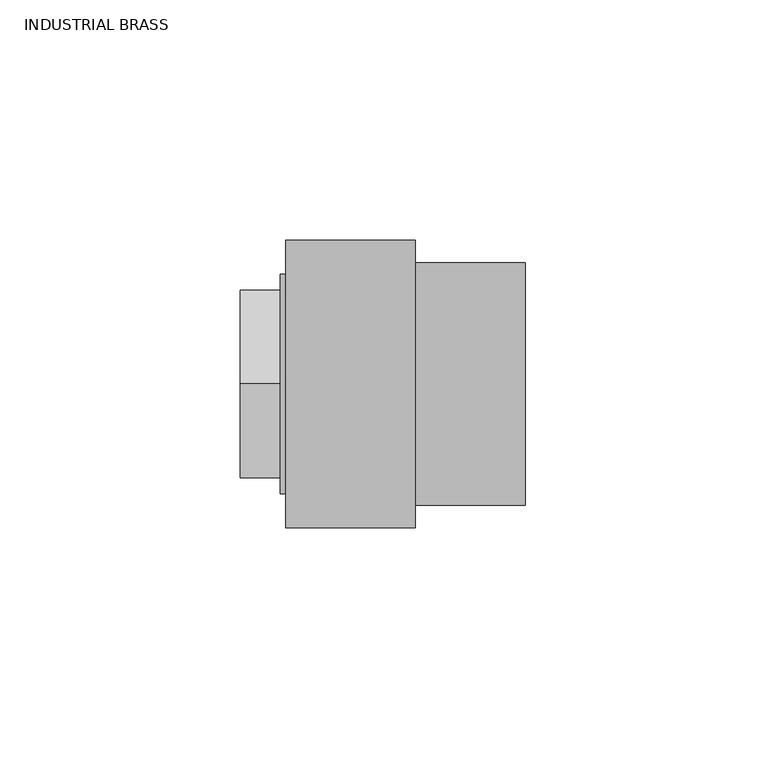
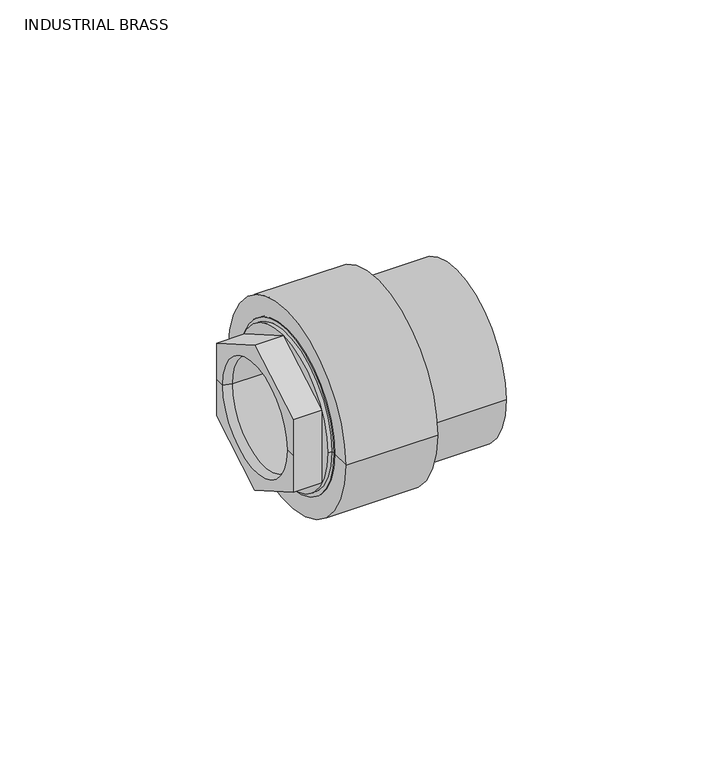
"""IFC4 building model written with IfcOpenShell, lengths in millimetres: valve geometry, Aquatherm - Transition Piece - F HEX : INDUSTRIAL BRASS."""

from ifc_helpers import new_model, si_unit, frame, origin, place, context, project, spatial, polyline, circle_curve, source, transform, mapped, element, save
from ifc_brep_helpers import plane_surface, cylinder_surface, revolved_surface, advanced_brep


def industrial_brass_e14cda01(model_context):
    return source(origin(), model_context, "Body", "AdvancedBrep", [
        advanced_brep(
        [(7.9375, -15.875, 0.0), (7.9375, 15.875, 0.0), (-6.9453125, 15.875, 0.0), (-6.9453125, -15.875, 0.0), (7.9375, -16.66875, 0.0), (7.9375, 16.66875, 0.0), (11.1125, -16.66875, 0.0), (11.1125, 16.66875, 0.0), (11.1125, -12.7, 0.0), (11.1125, 12.7, 0.0), (14.2875, -12.7, 0.0), (14.2875, 12.7, 0.0), (14.2875, -24.003, 0.0), (14.2875, 24.003, 0.0), (0.0, -24.003, 0.0), (0.0, 24.003, 0.0), (-9.525, -16.66875, 0.0), (-9.525, 16.66875, 0.0), (-9.525, 19.558, 0.0), (-9.525, 19.558, -11.2918166), (-9.525, 0.0, -22.5836331), (-9.525, -19.558, -11.2918166), (-9.525, -19.558, 0.0), (-9.525, -19.558, 11.2918166), (-9.525, 0.0, 22.5836331), (-9.525, 19.558, 11.2918166), (0.0, -22.86, 0.0), (0.0, 22.86, 0.0), (-1.190625, -22.86, 0.0), (-1.190625, 22.86, 0.0), (-1.190625, 0.0, -22.5836331), (-1.190625, 19.558, -11.2918166), (-1.190625, 19.558, 11.2918166), (-1.190625, 0.0, 22.5836331), (-1.190625, -19.558, 11.2918166), (-1.190625, -19.558, -11.2918166)],
        [
            (0, 1, circle_curve(frame((7.9375, 0.0, 0.0), z_axis=(1.0, 0.0, 0.0), x_axis=(0.0, 1.0, 0.0)), 15.875)),
            (1, 2),
            (2, 3, circle_curve(frame((-6.9453125, 0.0, 0.0), z_axis=(-1.0, 0.0, 0.0), x_axis=(0.0, 1.0, 0.0)), 15.875)),
            (3, 0),
            (1, 0, circle_curve(frame((7.9375, 0.0, 0.0), z_axis=(1.0, 0.0, 0.0), x_axis=(0.0, 1.0, 0.0)), 15.875)),
            (3, 2, circle_curve(frame((-6.9453125, 0.0, 0.0), z_axis=(-1.0, 0.0, 0.0), x_axis=(0.0, 1.0, 0.0)), 15.875)),
            (0, 4),
            (4, 5, circle_curve(frame((7.9375, 0.0, 0.0), z_axis=(1.0, 0.0, 0.0), x_axis=(0.0, 1.0, 0.0)), 16.66875)),
            (5, 1),
            (5, 4, circle_curve(frame((7.9375, 0.0, 0.0), z_axis=(1.0, 0.0, 0.0), x_axis=(0.0, 1.0, 0.0)), 16.66875)),
            (4, 6),
            (6, 7, circle_curve(frame((11.1125, 0.0, 0.0), z_axis=(1.0, 0.0, 0.0), x_axis=(0.0, 1.0, 0.0)), 16.66875)),
            (7, 5),
            (7, 6, circle_curve(frame((11.1125, 0.0, 0.0), z_axis=(1.0, 0.0, 0.0), x_axis=(0.0, 1.0, 0.0)), 16.66875)),
            (6, 8),
            (8, 9, circle_curve(frame((11.1125, 0.0, 0.0), z_axis=(1.0, 0.0, 0.0), x_axis=(0.0, 1.0, 0.0)), 12.7)),
            (9, 7),
            (9, 8, circle_curve(frame((11.1125, 0.0, 0.0), z_axis=(1.0, 0.0, 0.0), x_axis=(0.0, 1.0, 0.0)), 12.7)),
            (8, 10),
            (10, 11, circle_curve(frame((14.2875, 0.0, 0.0), z_axis=(1.0, 0.0, 0.0), x_axis=(0.0, 1.0, 0.0)), 12.7)),
            (11, 9),
            (11, 10, circle_curve(frame((14.2875, 0.0, 0.0), z_axis=(1.0, 0.0, 0.0), x_axis=(0.0, 1.0, 0.0)), 12.7)),
            (10, 12),
            (12, 13, circle_curve(frame((14.2875, 0.0, 0.0), z_axis=(1.0, 0.0, 0.0), x_axis=(0.0, 1.0, 0.0)), 24.003)),
            (13, 11),
            (13, 12, circle_curve(frame((14.2875, 0.0, 0.0), z_axis=(1.0, 0.0, 0.0), x_axis=(0.0, 1.0, 0.0)), 24.003)),
            (12, 14),
            (14, 15, circle_curve(frame((0.0, 0.0, 0.0), z_axis=(1.0, 0.0, 0.0), x_axis=(0.0, 1.0, 0.0)), 24.003)),
            (15, 13),
            (15, 14, circle_curve(frame((0.0, 0.0, 0.0), z_axis=(1.0, 0.0, 0.0), x_axis=(0.0, 1.0, 0.0)), 24.003)),
            (16, 17, circle_curve(frame((-9.525, 0.0, 0.0), z_axis=(1.0, 0.0, 0.0), x_axis=(0.0, 1.0, 0.0)), 16.66875)),
            (17, 18),
            (18, 19),
            (19, 20),
            (20, 21),
            (21, 22),
            (22, 16),
            (17, 16, circle_curve(frame((-9.525, 0.0, 0.0), z_axis=(1.0, 0.0, 0.0), x_axis=(0.0, 1.0, 0.0)), 16.66875)),
            (22, 23),
            (23, 24),
            (24, 25),
            (25, 18),
            (2, 17),
            (16, 3),
            (14, 26),
            (26, 27, circle_curve(frame((0.0, 0.0, 0.0), z_axis=(1.0, 0.0, 0.0), x_axis=(0.0, 1.0, 0.0)), 22.86)),
            (27, 15),
            (27, 26, circle_curve(frame((0.0, 0.0, 0.0), z_axis=(1.0, 0.0, 0.0), x_axis=(0.0, 1.0, 0.0)), 22.86)),
            (26, 28),
            (28, 29, circle_curve(frame((-1.190625, 0.0, 0.0), z_axis=(1.0, 0.0, 0.0), x_axis=(0.0, 1.0, 0.0)), 22.86)),
            (29, 27),
            (29, 28, circle_curve(frame((-1.190625, 0.0, 0.0), z_axis=(1.0, 0.0, 0.0), x_axis=(0.0, 1.0, 0.0)), 22.86)),
            (30, 31),
            (31, 32),
            (32, 33),
            (33, 34),
            (34, 35),
            (35, 30),
            (35, 21),
            (20, 30),
            (34, 23),
            (33, 24),
            (32, 25),
            (31, 19),
        ],
        [
            revolved_surface(polyline([(-6.9453125, 15.875, 0.0), (7.937499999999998, 15.875, 0.0)]), (-11.3582251, 0.0, 0.0), (-1.0, 0.0, 0.0)),
            plane_surface(frame((7.9375, 0.0, 0.0), z_axis=(1.0, 0.0, 0.0), x_axis=(0.0, 1.0, 0.0))),
            revolved_surface(polyline([(7.937499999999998, 16.66875, 0.0), (11.112500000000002, 16.66875, 0.0)]), (-11.3582251, 0.0, 0.0), (-1.0, 0.0, 0.0)),
            plane_surface(frame((11.1125, 0.0, 0.0), z_axis=(-1.0, 0.0, 0.0), x_axis=(0.0, 1.0, 0.0))),
            revolved_surface(polyline([(11.112500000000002, 12.7, 0.0), (14.2875, 12.7, 0.0)]), (-11.3582251, 0.0, 0.0), (-1.0, 0.0, 0.0)),
            plane_surface(frame((14.2875, 0.0, 0.0), z_axis=(1.0, 0.0, 0.0), x_axis=(0.0, 1.0, 0.0))),
            cylinder_surface(frame((-11.3582251, 0.0, 0.0), z_axis=(-1.0, 0.0, 0.0), x_axis=(0.0, 1.0, 0.0)), 24.003),
            plane_surface(frame((-9.525, 0.0, 0.0), z_axis=(-1.0, 0.0, 0.0), x_axis=(0.0, 1.0, 0.0))),
            revolved_surface(polyline([(-9.525, 16.66875, 0.0), (-6.9453125, 15.875, 0.0)]), (-11.3582251, 0.0, 0.0), (-1.0, 0.0, 0.0)),
            plane_surface(frame((0.0, 0.0, 0.0), z_axis=(-1.0, 0.0, 0.0), x_axis=(0.0, 1.0, 0.0))),
            cylinder_surface(frame((-11.3582251, 0.0, 0.0), z_axis=(-1.0, 0.0, 0.0), x_axis=(0.0, 1.0, 0.0)), 22.86),
            plane_surface(frame((-1.190625, -19.558, -11.2918166), z_axis=(-1.0000000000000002, 0.0, 0.0), x_axis=(0.0, -0.8660254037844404, 0.4999999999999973))),
            plane_surface(frame((-1.190625, 0.0, -22.5836331), z_axis=(0.0, -0.4999999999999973, -0.8660254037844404), x_axis=(-1.0, 0.0, 0.0))),
            plane_surface(frame((-1.190625, -19.558, -11.2918166), z_axis=(0.0, -1.0, 0.0), x_axis=(-1.0, 0.0, 0.0))),
            plane_surface(frame((-1.190625, -19.558, 11.2918166), z_axis=(0.0, -0.5000000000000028, 0.8660254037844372), x_axis=(-1.0, 0.0, 0.0))),
            plane_surface(frame((-1.190625, 0.0, 22.5836331), z_axis=(0.0, 0.49999999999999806, 0.8660254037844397), x_axis=(-1.0, 0.0, 0.0))),
            plane_surface(frame((-1.190625, 19.558, 11.2918166), z_axis=(0.0, 1.0, 0.0), x_axis=(-1.0, 0.0, 0.0))),
            plane_surface(frame((-1.190625, 19.558, -11.2918166), z_axis=(0.0, 0.5000000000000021, -0.8660254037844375), x_axis=(-1.0, 0.0, 0.0))),
        ],
        [
            (0, [[1, 2, 3, 4]]),
            (0, [[-2, 5, -4, 6]]),
            (1, [[-1, 7, 8, 9]]),
            (1, [[-5, -9, 10, -7]]),
            (2, [[-8, 11, 12, 13]]),
            (2, [[-10, -13, 14, -11]]),
            (3, [[-12, 15, 16, 17]]),
            (3, [[-14, -17, 18, -15]]),
            (4, [[-16, 19, 20, 21]]),
            (4, [[-18, -21, 22, -19]]),
            (5, [[-20, 23, 24, 25]]),
            (5, [[-22, -25, 26, -23]]),
            (6, [[-24, 27, 28, 29]]),
            (6, [[-26, -29, 30, -27]]),
            (7, [[31, 32, 33, 34, 35, 36, 37]]),
            (7, [[38, -37, 39, 40, 41, 42, -32]]),
            (8, [[-3, 43, -31, 44]]),
            (8, [[-6, -44, -38, -43]]),
            (9, [[-28, 45, 46, 47]]),
            (9, [[-30, -47, 48, -45]]),
            (10, [[-46, 49, 50, 51]]),
            (10, [[-48, -51, 52, -49]]),
            (11, [[-50, -52], [53, 54, 55, 56, 57, 58]]),
            (12, [[-58, 59, -35, 60]]),
            (13, [[-57, 61, -39, -36, -59]]),
            (14, [[-56, 62, -40, -61]]),
            (15, [[-55, 63, -41, -62]]),
            (16, [[-54, 64, -33, -42, -63]]),
            (17, [[-53, -60, -34, -64]]),
        ],
    ),
        advanced_brep(
        [(0.0, -29.972, 0.0), (0.0, 29.972, 0.0), (26.924, 29.972, 0.0), (26.924, -29.972, 0.0), (0.0, -24.003, 0.0), (0.0, 24.003, 0.0), (14.2875, -24.003, 0.0), (14.2875, 24.003, 0.0), (14.2875, -12.7, 0.0), (14.2875, 12.7, 0.0), (31.877, -12.7, 0.0), (31.877, 12.7, 0.0), (31.877, -16.002, 0.0), (31.877, 16.002, 0.0), (49.911, -16.002, 0.0), (49.911, 16.002, 0.0), (49.911, -25.2095, 0.0), (49.911, 25.2095, 0.0), (26.924, -25.2095, 0.0), (26.924, 25.2095, 0.0)],
        [
            (0, 1, circle_curve(frame((0.0, 0.0, 0.0), z_axis=(1.0, 0.0, 0.0), x_axis=(0.0, 1.0, 0.0)), 29.972)),
            (1, 2),
            (2, 3, circle_curve(frame((26.924, 0.0, 0.0), z_axis=(-1.0, 0.0, 0.0), x_axis=(0.0, 1.0, 0.0)), 29.972)),
            (3, 0),
            (1, 0, circle_curve(frame((0.0, 0.0, 0.0), z_axis=(1.0, 0.0, 0.0), x_axis=(0.0, 1.0, 0.0)), 29.972)),
            (3, 2, circle_curve(frame((26.924, 0.0, 0.0), z_axis=(-1.0, 0.0, 0.0), x_axis=(0.0, 1.0, 0.0)), 29.972)),
            (4, 5, circle_curve(frame((0.0, 0.0, 0.0), z_axis=(1.0, 0.0, 0.0), x_axis=(0.0, 1.0, 0.0)), 24.003)),
            (5, 1),
            (0, 4),
            (5, 4, circle_curve(frame((0.0, 0.0, 0.0), z_axis=(1.0, 0.0, 0.0), x_axis=(0.0, 1.0, 0.0)), 24.003)),
            (6, 7, circle_curve(frame((14.2875, 0.0, 0.0), z_axis=(1.0, 0.0, 0.0), x_axis=(0.0, 1.0, 0.0)), 24.003)),
            (7, 5),
            (4, 6),
            (7, 6, circle_curve(frame((14.2875, 0.0, 0.0), z_axis=(1.0, 0.0, 0.0), x_axis=(0.0, 1.0, 0.0)), 24.003)),
            (8, 9, circle_curve(frame((14.2875, 0.0, 0.0), z_axis=(1.0, 0.0, 0.0), x_axis=(0.0, 1.0, 0.0)), 12.7)),
            (9, 7),
            (6, 8),
            (9, 8, circle_curve(frame((14.2875, 0.0, 0.0), z_axis=(1.0, 0.0, 0.0), x_axis=(0.0, 1.0, 0.0)), 12.7)),
            (10, 11, circle_curve(frame((31.877, 0.0, 0.0), z_axis=(1.0, 0.0, 0.0), x_axis=(0.0, 1.0, 0.0)), 12.7)),
            (11, 9),
            (8, 10),
            (11, 10, circle_curve(frame((31.877, 0.0, 0.0), z_axis=(1.0, 0.0, 0.0), x_axis=(0.0, 1.0, 0.0)), 12.7)),
            (12, 13, circle_curve(frame((31.877, 0.0, 0.0), z_axis=(1.0, 0.0, 0.0), x_axis=(0.0, 1.0, 0.0)), 16.002)),
            (13, 11),
            (10, 12),
            (13, 12, circle_curve(frame((31.877, 0.0, 0.0), z_axis=(1.0, 0.0, 0.0), x_axis=(0.0, 1.0, 0.0)), 16.002)),
            (14, 15, circle_curve(frame((49.911, 0.0, 0.0), z_axis=(1.0, 0.0, 0.0), x_axis=(0.0, 1.0, 0.0)), 16.002)),
            (15, 13),
            (12, 14),
            (15, 14, circle_curve(frame((49.911, 0.0, 0.0), z_axis=(1.0, 0.0, 0.0), x_axis=(0.0, 1.0, 0.0)), 16.002)),
            (16, 17, circle_curve(frame((49.911, 0.0, 0.0), z_axis=(1.0, 0.0, 0.0), x_axis=(0.0, 1.0, 0.0)), 25.2095)),
            (17, 15),
            (14, 16),
            (17, 16, circle_curve(frame((49.911, 0.0, 0.0), z_axis=(1.0, 0.0, 0.0), x_axis=(0.0, 1.0, 0.0)), 25.2095)),
            (18, 19, circle_curve(frame((26.924, 0.0, 0.0), z_axis=(1.0, 0.0, 0.0), x_axis=(0.0, 1.0, 0.0)), 25.2095)),
            (19, 17),
            (16, 18),
            (19, 18, circle_curve(frame((26.924, 0.0, 0.0), z_axis=(1.0, 0.0, 0.0), x_axis=(0.0, 1.0, 0.0)), 25.2095)),
            (2, 19),
            (18, 3),
        ],
        [
            cylinder_surface(frame((-17.6281162, 0.0, 0.0), z_axis=(-1.0, 0.0, 0.0), x_axis=(0.0, 1.0, 0.0)), 29.972),
            plane_surface(frame((0.0, 0.0, 0.0), z_axis=(-1.0, 0.0, 0.0), x_axis=(0.0, 1.0, 0.0))),
            revolved_surface(polyline([(0.0, 24.003, 0.0), (14.287500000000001, 24.003, 0.0)]), (-17.6281162, 0.0, 0.0), (-1.0, 0.0, 0.0)),
            plane_surface(frame((14.2875, 0.0, 0.0), z_axis=(-1.0, 0.0, 0.0), x_axis=(0.0, 1.0, 0.0))),
            revolved_surface(polyline([(14.287500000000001, 12.7, 0.0), (31.877000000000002, 12.7, 0.0)]), (-17.6281162, 0.0, 0.0), (-1.0, 0.0, 0.0)),
            plane_surface(frame((31.877, 0.0, 0.0), z_axis=(1.0, 0.0, 0.0), x_axis=(0.0, 1.0, 0.0))),
            revolved_surface(polyline([(31.877000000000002, 16.002, 0.0), (49.910999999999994, 16.002, 0.0)]), (-17.6281162, 0.0, 0.0), (-1.0, 0.0, 0.0)),
            plane_surface(frame((49.911, 0.0, 0.0), z_axis=(1.0, 0.0, 0.0), x_axis=(0.0, 1.0, 0.0))),
            cylinder_surface(frame((-17.6281162, 0.0, 0.0), z_axis=(-1.0, 0.0, 0.0), x_axis=(0.0, 1.0, 0.0)), 25.2095),
            plane_surface(frame((26.924, 0.0, 0.0), z_axis=(1.0, 0.0, 0.0), x_axis=(0.0, 1.0, 0.0))),
        ],
        [
            (0, [[1, 2, 3, 4]]),
            (0, [[5, -4, 6, -2]]),
            (1, [[7, 8, -1, 9]]),
            (1, [[10, -9, -5, -8]]),
            (2, [[11, 12, -7, 13]]),
            (2, [[14, -13, -10, -12]]),
            (3, [[15, 16, -11, 17]]),
            (3, [[18, -17, -14, -16]]),
            (4, [[19, 20, -15, 21]]),
            (4, [[22, -21, -18, -20]]),
            (5, [[23, 24, -19, 25]]),
            (5, [[26, -25, -22, -24]]),
            (6, [[27, 28, -23, 29]]),
            (6, [[30, -29, -26, -28]]),
            (7, [[31, 32, -27, 33]]),
            (7, [[34, -33, -30, -32]]),
            (8, [[35, 36, -31, 37]]),
            (8, [[38, -37, -34, -36]]),
            (9, [[-3, 39, -35, 40]]),
            (9, [[-6, -40, -38, -39]]),
        ],
    ),
    ])


if __name__ == "__main__":
    model = new_model("IFC4")
    model_context = context("Model", 3, world=origin())
    ifc_project = project(units=[si_unit("LENGTHUNIT", "METRE", prefix="MILLI")], contexts=[model_context])
    site = spatial("IfcSite", under=ifc_project)
    building = spatial("IfcBuilding", under=site)
    placement = place(None, origin())
    industrial_brass_shape = industrial_brass_e14cda01(model_context)
    element("IfcValve", 1, ObjectType="Aquatherm - Transition Piece - F HEX : INDUSTRIAL BRASS", at=placement, inside=building, context=model_context, shape_type="MappedRepresentation", body=[
        mapped(industrial_brass_shape, transform((0.0, 0.0, 0.0), x_axis=(1.0, 0.0, 0.0), y_axis=(0.0, 1.0, 0.0), z_axis=(0.0, 0.0, 1.0))),
    ])
    save(model, "model.ifc")
